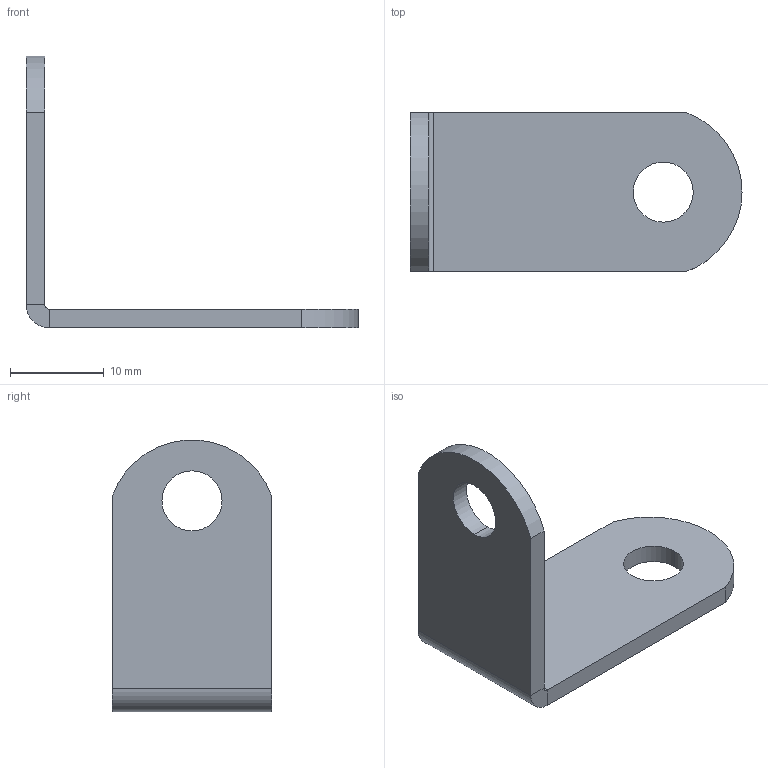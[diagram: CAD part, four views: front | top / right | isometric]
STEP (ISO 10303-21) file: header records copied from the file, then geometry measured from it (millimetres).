
FILE_DESCRIPTION (( 'STEP AP214' ), '1' );
FILE_NAME ('1C.906.003.STEP', '2016-08-18T06:34:05', ( 'RST-Dolba' ), ( '' ), 'SwSTEP 2.0', 'SolidWorks 2015', '' );
FILE_SCHEMA (( 'AUTOMOTIVE_DESIGN' ));
Length unit declared in the file: millimetre
Products named in the file (1): 1C.906.003
Bounding box: 35.4 x 17 x 28.97 mm (x, y, z)
Volume: 1860.5 mm3; surface area: 2228.6 mm2
Topology: 1 solids, 1 shells, 19 faces, 43 edges, 26 vertices
Faces by surface type: plane 10, cylinder 9
Entity records: 573 total; most frequent: DIRECTION 101, CARTESIAN_POINT 89, ORIENTED_EDGE 86, EDGE_CURVE 43, AXIS2_PLACEMENT_3D 38, VERTEX_POINT 26, LINE 25, VECTOR 25
